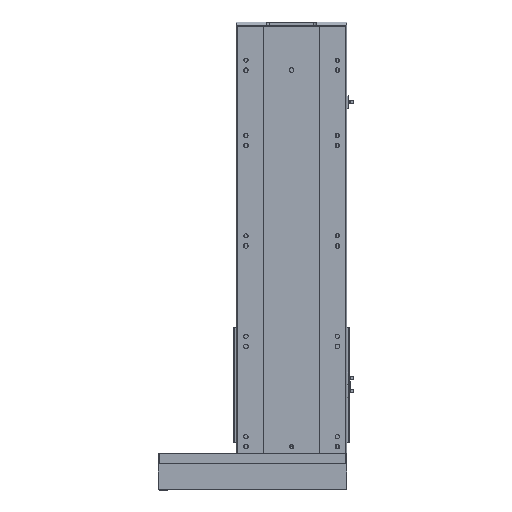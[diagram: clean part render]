
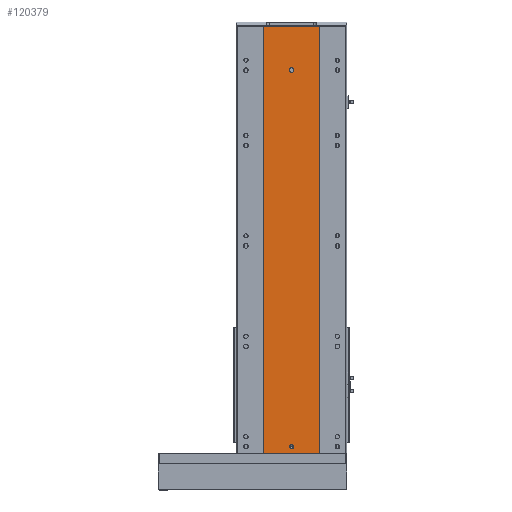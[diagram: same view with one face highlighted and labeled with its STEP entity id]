
A CAD part, top view. The second image highlights one B-rep face of the part: STEP entity #120379.
In plain terms, the highlighted planar face has unit normal (0, 0, 1).
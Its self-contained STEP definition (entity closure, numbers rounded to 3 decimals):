
#315 = CIRCLE ( 'NONE', #40508, 4. ) ;
#863 = CARTESIAN_POINT ( 'NONE',  ( -55., 851., 58. ) ) ;
#3398 = VERTEX_POINT ( 'NONE', #71869 ) ;
#4392 = CARTESIAN_POINT ( 'NONE',  ( 4., 765., 58. ) ) ;
#4642 = DIRECTION ( 'NONE',  ( 0., 0., -1. ) ) ;
#6502 = VERTEX_POINT ( 'NONE', #107948 ) ;
#7056 = FACE_BOUND ( 'NONE', #119234, .T. ) ;
#8309 = VECTOR ( 'NONE', #45778, 1000. ) ;
#13515 = VECTOR ( 'NONE', #28864, 1000. ) ;
#13865 = DIRECTION ( 'NONE',  ( 0., 0., 1. ) ) ;
#14289 = CARTESIAN_POINT ( 'NONE',  ( 0., 763., 58. ) ) ;
#16315 = ORIENTED_EDGE ( 'NONE', *, *, #113738, .F. ) ;
#16916 = EDGE_CURVE ( 'NONE', #87563, #68766, #315, .T. ) ;
#19972 = VECTOR ( 'NONE', #32912, 1000. ) ;
#19992 = VERTEX_POINT ( 'NONE', #28640 ) ;
#22932 = ORIENTED_EDGE ( 'NONE', *, *, #62328, .T. ) ;
#23606 = DIRECTION ( 'NONE',  ( 1., 0., 0. ) ) ;
#24255 = EDGE_LOOP ( 'NONE', ( #73682, #16315 ) ) ;
#25777 = CARTESIAN_POINT ( 'NONE',  ( -55., 851., 58. ) ) ;
#25993 = AXIS2_PLACEMENT_3D ( 'NONE', #100124, #4642, #109201 ) ;
#27369 = DIRECTION ( 'NONE',  ( 0., -1., 0. ) ) ;
#27740 = AXIS2_PLACEMENT_3D ( 'NONE', #32987, #100116, #23606 ) ;
#28640 = CARTESIAN_POINT ( 'NONE',  ( -4., 765., 58. ) ) ;
#28864 = DIRECTION ( 'NONE',  ( 1., 0., 0. ) ) ;
#32005 = FACE_BOUND ( 'NONE', #24255, .T. ) ;
#32912 = DIRECTION ( 'NONE',  ( 1., 0., 0. ) ) ;
#32987 = CARTESIAN_POINT ( 'NONE',  ( 0., 14., 58. ) ) ;
#34295 = VECTOR ( 'NONE', #35151, 1000. ) ;
#35151 = DIRECTION ( 'NONE',  ( 0., -1., 0. ) ) ;
#37828 = VERTEX_POINT ( 'NONE', #90828 ) ;
#38478 = LINE ( 'NONE', #863, #13515 ) ;
#39167 = CARTESIAN_POINT ( 'NONE',  ( 55., 851., 58. ) ) ;
#40508 = AXIS2_PLACEMENT_3D ( 'NONE', #14289, #13865, #108162 ) ;
#45778 = DIRECTION ( 'NONE',  ( 0., -1., 0. ) ) ;
#47083 = DIRECTION ( 'NONE',  ( 1., 0., 0. ) ) ;
#48220 = ORIENTED_EDGE ( 'NONE', *, *, #97414, .F. ) ;
#48261 = DIRECTION ( 'NONE',  ( 0., 0., 1. ) ) ;
#48569 = ORIENTED_EDGE ( 'NONE', *, *, #50668, .F. ) ;
#50668 = EDGE_CURVE ( 'NONE', #19992, #87563, #122181, .T. ) ;
#51728 = VECTOR ( 'NONE', #27369, 1000. ) ;
#52207 = LINE ( 'NONE', #89289, #19972 ) ;
#53374 = CARTESIAN_POINT ( 'NONE',  ( -4., 14., 58. ) ) ;
#54416 = CIRCLE ( 'NONE', #97192, 4. ) ;
#56405 = ORIENTED_EDGE ( 'NONE', *, *, #99324, .F. ) ;
#57755 = DIRECTION ( 'NONE',  ( 1., 0., 0. ) ) ;
#60941 = VERTEX_POINT ( 'NONE', #100810 ) ;
#62328 = EDGE_CURVE ( 'NONE', #37828, #6502, #98751, .T. ) ;
#63559 = CARTESIAN_POINT ( 'NONE',  ( 55., 851., 58. ) ) ;
#64770 = CARTESIAN_POINT ( 'NONE',  ( -4., 763., 58. ) ) ;
#65026 = CARTESIAN_POINT ( 'NONE',  ( -4., 763., 58. ) ) ;
#65966 = EDGE_CURVE ( 'NONE', #86432, #60941, #76856, .T. ) ;
#66482 = DIRECTION ( 'NONE',  ( 0., 0., 1. ) ) ;
#67877 = EDGE_CURVE ( 'NONE', #3398, #97763, #106037, .T. ) ;
#68766 = VERTEX_POINT ( 'NONE', #113637 ) ;
#71869 = CARTESIAN_POINT ( 'NONE',  ( 4., 14., 58. ) ) ;
#73682 = ORIENTED_EDGE ( 'NONE', *, *, #67877, .F. ) ;
#76856 = LINE ( 'NONE', #63559, #51728 ) ;
#82979 = VERTEX_POINT ( 'NONE', #4392 ) ;
#86380 = ORIENTED_EDGE ( 'NONE', *, *, #65966, .F. ) ;
#86432 = VERTEX_POINT ( 'NONE', #39167 ) ;
#87563 = VERTEX_POINT ( 'NONE', #65026 ) ;
#89289 = CARTESIAN_POINT ( 'NONE',  ( -55., 0., 58. ) ) ;
#90828 = CARTESIAN_POINT ( 'NONE',  ( -55., 851., 58. ) ) ;
#93900 = EDGE_CURVE ( 'NONE', #6502, #60941, #52207, .T. ) ;
#97192 = AXIS2_PLACEMENT_3D ( 'NONE', #104759, #48261, #57755 ) ;
#97414 = EDGE_CURVE ( 'NONE', #37828, #86432, #38478, .T. ) ;
#97697 = CARTESIAN_POINT ( 'NONE',  ( 4., 763., 58. ) ) ;
#97763 = VERTEX_POINT ( 'NONE', #53374 ) ;
#98751 = LINE ( 'NONE', #25777, #34295 ) ;
#99324 = EDGE_CURVE ( 'NONE', #82979, #19992, #54416, .T. ) ;
#99741 = ORIENTED_EDGE ( 'NONE', *, *, #93900, .T. ) ;
#100116 = DIRECTION ( 'NONE',  ( 0., 0., 1. ) ) ;
#100124 = CARTESIAN_POINT ( 'NONE',  ( -55., 851., 58. ) ) ;
#100810 = CARTESIAN_POINT ( 'NONE',  ( 55., 0., 58. ) ) ;
#103985 = AXIS2_PLACEMENT_3D ( 'NONE', #104802, #66482, #47083 ) ;
#104413 = ORIENTED_EDGE ( 'NONE', *, *, #116858, .F. ) ;
#104759 = CARTESIAN_POINT ( 'NONE',  ( 0., 765., 58. ) ) ;
#104802 = CARTESIAN_POINT ( 'NONE',  ( 0., 14., 58. ) ) ;
#105591 = DIRECTION ( 'NONE',  ( 0., 1., 0. ) ) ;
#105779 = EDGE_LOOP ( 'NONE', ( #99741, #86380, #48220, #22932 ) ) ;
#106037 = CIRCLE ( 'NONE', #103985, 4. ) ;
#107655 = LINE ( 'NONE', #97697, #112043 ) ;
#107948 = CARTESIAN_POINT ( 'NONE',  ( -55., 0., 58. ) ) ;
#108162 = DIRECTION ( 'NONE',  ( 1., 0., 0. ) ) ;
#109201 = DIRECTION ( 'NONE',  ( -1., 0., 0. ) ) ;
#109353 = CIRCLE ( 'NONE', #27740, 4. ) ;
#112043 = VECTOR ( 'NONE', #105591, 1000. ) ;
#113637 = CARTESIAN_POINT ( 'NONE',  ( 4., 763., 58. ) ) ;
#113738 = EDGE_CURVE ( 'NONE', #97763, #3398, #109353, .T. ) ;
#116858 = EDGE_CURVE ( 'NONE', #68766, #82979, #107655, .T. ) ;
#117692 = ORIENTED_EDGE ( 'NONE', *, *, #16916, .F. ) ;
#117890 = PLANE ( 'NONE',  #25993 ) ;
#119234 = EDGE_LOOP ( 'NONE', ( #104413, #117692, #48569, #56405 ) ) ;
#120379 = ADVANCED_FACE ( 'NONE', ( #32005, #7056, #120425 ), #117890, .F. ) ;
#120425 = FACE_OUTER_BOUND ( 'NONE', #105779, .T. ) ;
#122181 = LINE ( 'NONE', #64770, #8309 ) ;
